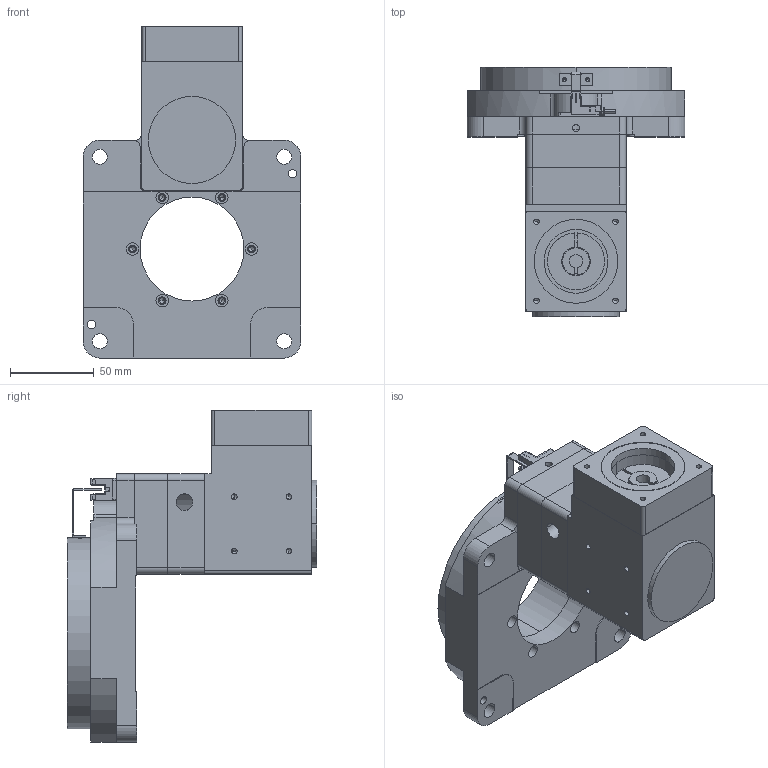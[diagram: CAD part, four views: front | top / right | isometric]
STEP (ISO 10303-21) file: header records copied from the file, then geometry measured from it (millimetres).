
FILE_DESCRIPTION((''),'2;1');
FILE_NAME('ZCT130-14-50-70_ASM','2021-07-15T14:04:16',('Administrator'),(''),'CREO PARAMETRIC BY PTC INC, 2017260','CREO PARAMETRIC BY PTC INC, 2017260','');
FILE_SCHEMA(('CONFIG_CONTROL_DESIGN','SHAPE_APPEARANCE_LAYERS_GROUPS'));
Length unit declared in the file: millimetre
Products named in the file (21): PRS130; BASE_130; OIL-SEAL_130_TC114X126X6; FLANGE_130-52-70-M5; _-697000; _-913000; _000; _-2061-4714000; WASHER_57; SHAFT-SLEEVE-14TO8; ZCR60-S2_1_AF0_ASM; 00; _51350; _69880; _82320; 0; SY-307_1_ASM; ROCKER_ZCT130; SENSOR_ZCT130_ASM; BEARING-SOLID-SEAT_130; ZCT130-14-50-70_ASM
Assembly tree (20 placements, depth 4):
  ZCT130-14-50-70_ASM
    PRS130
    BASE_130
    OIL-SEAL_130_TC114X126X6
    FLANGE_130-52-70-M5
    ZCR60-S2_1_AF0_ASM
      _-697000
      _-913000
      _000
      _-2061-4714000
      WASHER_57
      SHAFT-SLEEVE-14TO8
    SENSOR_ZCT130_ASM
      SY-307_1_ASM
        00
        _51350
        _69880
        _82320
        0
      ROCKER_ZCT130
    BEARING-SOLID-SEAT_130
Bounding box: 130 x 149 x 198.1 mm (x, y, z)
Volume: 815389.5 mm3; surface area: 191879.8 mm2
Topology: 17 solids, 17 shells, 884 faces, 2346 edges, 1455 vertices
Faces by surface type: plane 383, cylinder 356, cone 122, bspline 14, torus 5, sphere 4
Entity records: 34223 total; most frequent: CARTESIAN_POINT 5716, DIRECTION 4751, ORIENTED_EDGE 4468, EDGE_CURVE 2234, AXIS2_PLACEMENT_3D 1677, PRESENTATION_STYLE_ASSIGNMENT 1592, STYLED_ITEM 1592, VERTEX_POINT 1455
